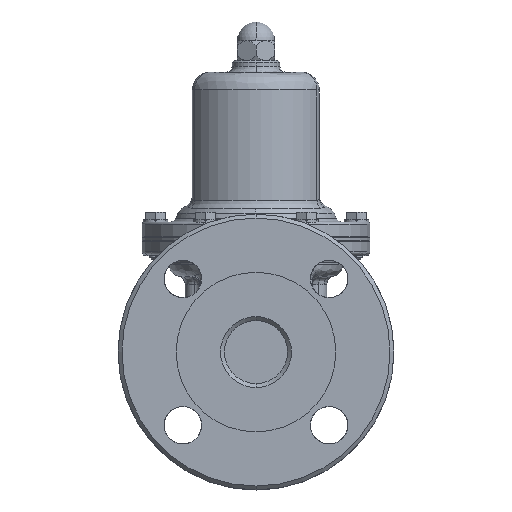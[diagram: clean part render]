
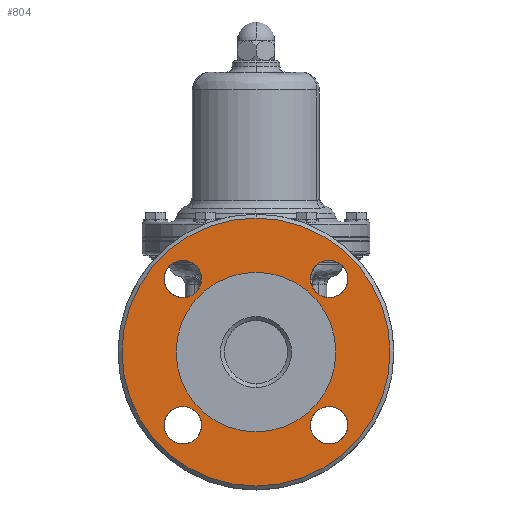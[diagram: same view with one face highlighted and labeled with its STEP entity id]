
A CAD part, left-side view. The second image highlights one B-rep face of the part: STEP entity #804.
In plain terms, the highlighted planar face has unit normal (-1, 0, 0).
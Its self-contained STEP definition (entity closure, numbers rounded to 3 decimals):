
#804=ADVANCED_FACE('',(#4618,#4619,#4620,#4621,#4622,#4623),#4617,.T.);
#4617=PLANE('',#10675);
#4618=FACE_OUTER_BOUND('',#10676,.T.);
#4619=FACE_BOUND('',#10677,.T.);
#4620=FACE_BOUND('',#10678,.T.);
#4621=FACE_BOUND('',#10679,.T.);
#4622=FACE_BOUND('',#10680,.T.);
#4623=FACE_BOUND('',#10681,.T.);
#10672=CARTESIAN_POINT('',(-109.,-127.779,-146.));
#10673=DIRECTION('',(-1.,0.,0.));
#10674=DIRECTION('',(0.,0.,1.));
#10675=AXIS2_PLACEMENT_3D('',#10672,#10673,#10674);
#10676=EDGE_LOOP('',(#15626,#15627));
#10677=EDGE_LOOP('',(#15628,#15629));
#10678=EDGE_LOOP('',(#15630,#15631));
#10679=EDGE_LOOP('',(#15632,#15633));
#10680=EDGE_LOOP('',(#15634,#15635));
#10681=EDGE_LOOP('',(#15636,#15637));
#15626=ORIENTED_EDGE('',*,*,#17741,.T.);
#15627=ORIENTED_EDGE('',*,*,#17742,.T.);
#15628=ORIENTED_EDGE('',*,*,#17743,.F.);
#15629=ORIENTED_EDGE('',*,*,#17744,.F.);
#15630=ORIENTED_EDGE('',*,*,#17745,.F.);
#15631=ORIENTED_EDGE('',*,*,#17746,.F.);
#15632=ORIENTED_EDGE('',*,*,#17747,.F.);
#15633=ORIENTED_EDGE('',*,*,#17748,.F.);
#15634=ORIENTED_EDGE('',*,*,#17749,.F.);
#15635=ORIENTED_EDGE('',*,*,#17750,.F.);
#15636=ORIENTED_EDGE('',*,*,#17751,.F.);
#15637=ORIENTED_EDGE('',*,*,#17752,.F.);
#17741=EDGE_CURVE('',#25308,#25309,#25310,.T.);
#17742=EDGE_CURVE('',#25309,#25308,#25316,.T.);
#17743=EDGE_CURVE('',#25322,#25323,#25324,.T.);
#17744=EDGE_CURVE('',#25323,#25322,#25330,.T.);
#17745=EDGE_CURVE('',#25336,#25337,#25338,.T.);
#17746=EDGE_CURVE('',#25337,#25336,#25344,.T.);
#17747=EDGE_CURVE('',#25350,#25351,#25352,.T.);
#17748=EDGE_CURVE('',#25351,#25350,#25358,.T.);
#17749=EDGE_CURVE('',#25364,#25365,#25366,.T.);
#17750=EDGE_CURVE('',#25365,#25364,#25372,.T.);
#17751=EDGE_CURVE('',#25378,#25379,#25380,.T.);
#17752=EDGE_CURVE('',#25379,#25378,#25386,.T.);
#25308=VERTEX_POINT('',#35189);
#25309=VERTEX_POINT('',#35190);
#25310=CIRCLE('',#35194,68.);
#25316=CIRCLE('',#35198,68.);
#25322=VERTEX_POINT('',#35199);
#25323=VERTEX_POINT('',#35200);
#25324=CIRCLE('',#35204,9.5);
#25330=CIRCLE('',#35208,9.5);
#25336=VERTEX_POINT('',#35209);
#25337=VERTEX_POINT('',#35210);
#25338=CIRCLE('',#35214,9.5);
#25344=CIRCLE('',#35218,9.5);
#25350=VERTEX_POINT('',#35219);
#25351=VERTEX_POINT('',#35220);
#25352=CIRCLE('',#35224,9.5);
#25358=CIRCLE('',#35228,9.5);
#25364=VERTEX_POINT('',#35229);
#25365=VERTEX_POINT('',#35230);
#25366=CIRCLE('',#35234,9.5);
#25372=CIRCLE('',#35238,9.5);
#25378=VERTEX_POINT('',#35239);
#25379=VERTEX_POINT('',#35240);
#25380=CIRCLE('',#35244,40.5);
#25386=CIRCLE('',#35248,40.5);
#35189=CARTESIAN_POINT('',(-109.,0.,68.));
#35190=CARTESIAN_POINT('',(-109.,0.,-68.));
#35191=CARTESIAN_POINT('',(-109.,0.,0.));
#35192=DIRECTION('',(-1.,0.,0.));
#35193=DIRECTION('',(0.,0.,1.));
#35194=AXIS2_PLACEMENT_3D('',#35191,#35192,#35193);
#35195=CARTESIAN_POINT('',(-109.,0.,0.));
#35196=DIRECTION('',(-1.,0.,0.));
#35197=DIRECTION('',(0.,0.,1.));
#35198=AXIS2_PLACEMENT_3D('',#35195,#35196,#35197);
#35199=CARTESIAN_POINT('',(-109.,37.123,-46.623));
#35200=CARTESIAN_POINT('',(-109.,37.123,-27.623));
#35201=CARTESIAN_POINT('',(-109.,37.123,-37.123));
#35202=DIRECTION('',(-1.,0.,0.));
#35203=DIRECTION('',(0.,0.,1.));
#35204=AXIS2_PLACEMENT_3D('',#35201,#35202,#35203);
#35205=CARTESIAN_POINT('',(-109.,37.123,-37.123));
#35206=DIRECTION('',(-1.,0.,0.));
#35207=DIRECTION('',(0.,0.,1.));
#35208=AXIS2_PLACEMENT_3D('',#35205,#35206,#35207);
#35209=CARTESIAN_POINT('',(-109.,-37.123,-46.623));
#35210=CARTESIAN_POINT('',(-109.,-37.123,-27.623));
#35211=CARTESIAN_POINT('',(-109.,-37.123,-37.123));
#35212=DIRECTION('',(-1.,0.,0.));
#35213=DIRECTION('',(0.,0.,1.));
#35214=AXIS2_PLACEMENT_3D('',#35211,#35212,#35213);
#35215=CARTESIAN_POINT('',(-109.,-37.123,-37.123));
#35216=DIRECTION('',(-1.,0.,0.));
#35217=DIRECTION('',(0.,0.,1.));
#35218=AXIS2_PLACEMENT_3D('',#35215,#35216,#35217);
#35219=CARTESIAN_POINT('',(-109.,-37.123,27.623));
#35220=CARTESIAN_POINT('',(-109.,-37.123,46.623));
#35221=CARTESIAN_POINT('',(-109.,-37.123,37.123));
#35222=DIRECTION('',(-1.,0.,0.));
#35223=DIRECTION('',(0.,0.,1.));
#35224=AXIS2_PLACEMENT_3D('',#35221,#35222,#35223);
#35225=CARTESIAN_POINT('',(-109.,-37.123,37.123));
#35226=DIRECTION('',(-1.,0.,0.));
#35227=DIRECTION('',(0.,0.,1.));
#35228=AXIS2_PLACEMENT_3D('',#35225,#35226,#35227);
#35229=CARTESIAN_POINT('',(-109.,37.123,27.623));
#35230=CARTESIAN_POINT('',(-109.,37.123,46.623));
#35231=CARTESIAN_POINT('',(-109.,37.123,37.123));
#35232=DIRECTION('',(-1.,0.,0.));
#35233=DIRECTION('',(0.,0.,1.));
#35234=AXIS2_PLACEMENT_3D('',#35231,#35232,#35233);
#35235=CARTESIAN_POINT('',(-109.,37.123,37.123));
#35236=DIRECTION('',(-1.,0.,0.));
#35237=DIRECTION('',(0.,0.,1.));
#35238=AXIS2_PLACEMENT_3D('',#35235,#35236,#35237);
#35239=CARTESIAN_POINT('',(-109.,0.,-40.5));
#35240=CARTESIAN_POINT('',(-109.,0.,40.5));
#35241=CARTESIAN_POINT('',(-109.,0.,0.));
#35242=DIRECTION('',(-1.,0.,0.));
#35243=DIRECTION('',(0.,0.,1.));
#35244=AXIS2_PLACEMENT_3D('',#35241,#35242,#35243);
#35245=CARTESIAN_POINT('',(-109.,0.,0.));
#35246=DIRECTION('',(-1.,0.,0.));
#35247=DIRECTION('',(0.,0.,1.));
#35248=AXIS2_PLACEMENT_3D('',#35245,#35246,#35247);
